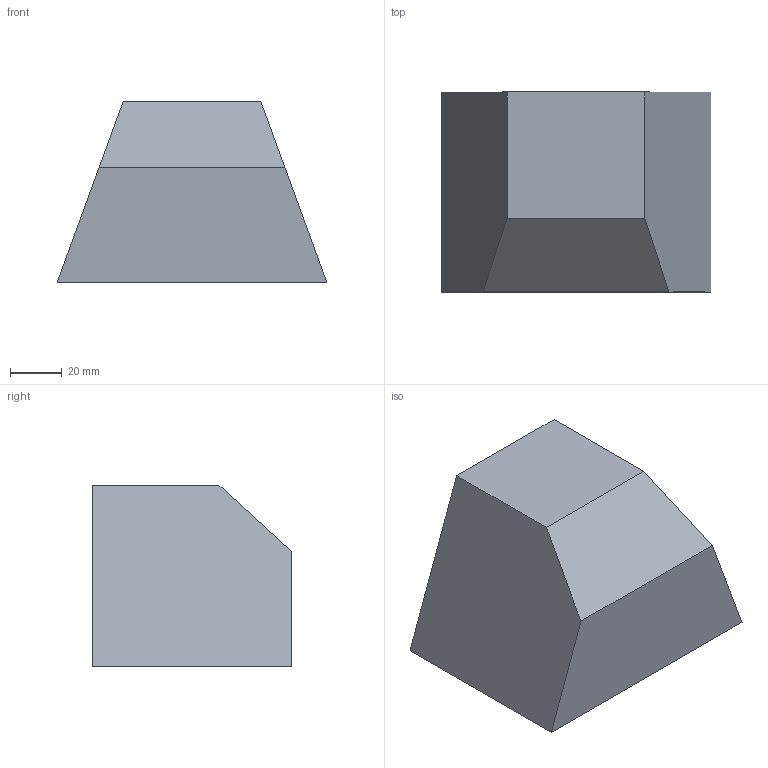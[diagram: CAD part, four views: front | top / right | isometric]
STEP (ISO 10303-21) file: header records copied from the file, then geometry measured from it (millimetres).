
FILE_DESCRIPTION(/* description */ (''),/* implementation_level */ '2;1');
FILE_NAME(/* name */ 'C:/Users/USER/Desktop/720709R1008.step',/* time_stamp */ '2022-07-15T12:08:04+09:00',/* author */ (''),/* organization */ (''),/* preprocessor_version */ 'ST-DEVELOPER v19',/* originating_system */ 'Autodesk Translation Framework v11.7.0.108',/* authorisation */ '');
FILE_SCHEMA (('AUTOMOTIVE_DESIGN { 1 0 10303 214 3 1 1 }'));
Length unit declared in the file: millimetre
Products named in the file (1): (저장되지 않음)
Bounding box: 104 x 77 x 70 mm (x, y, z)
Volume: 401969.8 mm3; surface area: 33077.8 mm2
Topology: 1 solids, 1 shells, 7 faces, 15 edges, 10 vertices
Faces by surface type: plane 7
Entity records: 222 total; most frequent: CARTESIAN_POINT 33, DIRECTION 31, ORIENTED_EDGE 30, LINE 15, VECTOR 15, EDGE_CURVE 15, VERTEX_POINT 10, AXIS2_PLACEMENT_3D 8
